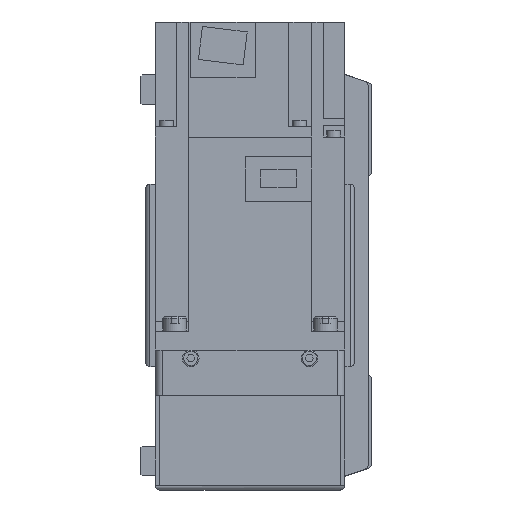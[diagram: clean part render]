
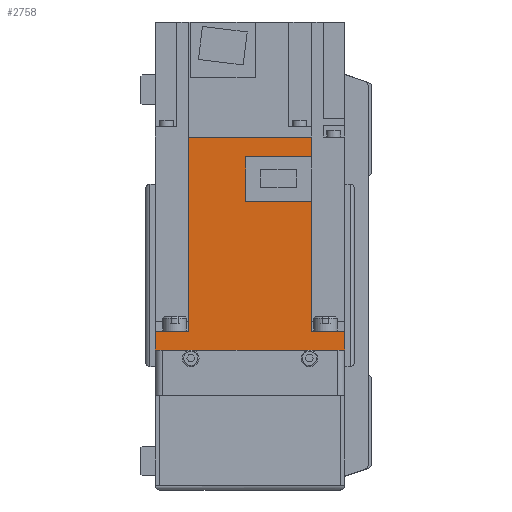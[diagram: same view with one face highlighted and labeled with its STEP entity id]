
A CAD part, left-side view. The second image highlights one B-rep face of the part: STEP entity #2758.
In plain terms, the highlighted planar face has unit normal (-1, 0, 0) as drawn and (1, 0, 0) by its records, which use the part's own axes.
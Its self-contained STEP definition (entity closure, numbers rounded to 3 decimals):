
#2758 = ADVANCED_FACE( '', ( #5759 ), #5760, .F. );
#5759 = FACE_OUTER_BOUND( '', #8881, .T. );
#5760 = PLANE( '', #8882 );
#8881 = EDGE_LOOP( '', ( #16660, #16661, #16662, #16663, #16664, #16665, #16666, #16667, #16668, #16669, #16670, #16671 ) );
#8882 = AXIS2_PLACEMENT_3D( '', #16672, #16673, #16674 );
#16660 = ORIENTED_EDGE( '', *, *, #18873, .F. );
#16661 = ORIENTED_EDGE( '', *, *, #20983, .F. );
#16662 = ORIENTED_EDGE( '', *, *, #19799, .F. );
#16663 = ORIENTED_EDGE( '', *, *, #18566, .T. );
#16664 = ORIENTED_EDGE( '', *, *, #20676, .F. );
#16665 = ORIENTED_EDGE( '', *, *, #19483, .T. );
#16666 = ORIENTED_EDGE( '', *, *, #21108, .T. );
#16667 = ORIENTED_EDGE( '', *, *, #20032, .F. );
#16668 = ORIENTED_EDGE( '', *, *, #20920, .F. );
#16669 = ORIENTED_EDGE( '', *, *, #20984, .F. );
#16670 = ORIENTED_EDGE( '', *, *, #19229, .F. );
#16671 = ORIENTED_EDGE( '', *, *, #21109, .F. );
#16672 = CARTESIAN_POINT( '', ( 40., 89.8, 40. ) );
#16673 = DIRECTION( '', ( -1., 0., 0. ) );
#16674 = DIRECTION( '', ( 0., 0., 1. ) );
#18566 = EDGE_CURVE( '', #22396, #22394, #22397, .T. );
#18873 = EDGE_CURVE( '', #22916, #22918, #22919, .T. );
#19229 = EDGE_CURVE( '', #23510, #23511, #23512, .T. );
#19483 = EDGE_CURVE( '', #23915, #23913, #23916, .T. );
#19799 = EDGE_CURVE( '', #22396, #24380, #24383, .T. );
#20032 = EDGE_CURVE( '', #24718, #24720, #24721, .T. );
#20676 = EDGE_CURVE( '', #23915, #22394, #25580, .T. );
#20920 = EDGE_CURVE( '', #25873, #24718, #25874, .T. );
#20983 = EDGE_CURVE( '', #24380, #22916, #25950, .T. );
#20984 = EDGE_CURVE( '', #23511, #25873, #25951, .T. );
#21108 = EDGE_CURVE( '', #23913, #24720, #26087, .T. );
#21109 = EDGE_CURVE( '', #22918, #23510, #26088, .T. );
#22394 = VERTEX_POINT( '', #27782 );
#22396 = VERTEX_POINT( '', #27785 );
#22397 = LINE( '', #27786, #27787 );
#22916 = VERTEX_POINT( '', #28491 );
#22918 = VERTEX_POINT( '', #28494 );
#22919 = LINE( '', #28495, #28496 );
#23510 = VERTEX_POINT( '', #29335 );
#23511 = VERTEX_POINT( '', #29336 );
#23512 = LINE( '', #29337, #29338 );
#23913 = VERTEX_POINT( '', #29887 );
#23915 = VERTEX_POINT( '', #29890 );
#23916 = LINE( '', #29891, #29892 );
#24380 = VERTEX_POINT( '', #30600 );
#24383 = LINE( '', #30605, #30606 );
#24718 = VERTEX_POINT( '', #31123 );
#24720 = VERTEX_POINT( '', #31126 );
#24721 = LINE( '', #31127, #31128 );
#25580 = LINE( '', #32455, #32456 );
#25873 = VERTEX_POINT( '', #32873 );
#25874 = LINE( '', #32874, #32875 );
#25950 = LINE( '', #32973, #32974 );
#25951 = LINE( '', #32975, #32976 );
#26087 = LINE( '', #33151, #33152 );
#26088 = LINE( '', #33153, #33154 );
#27782 = CARTESIAN_POINT( '', ( 40., 8., 25.95 ) );
#27785 = CARTESIAN_POINT( '', ( 40., 89.8, 25.95 ) );
#27786 = CARTESIAN_POINT( '', ( 40., 158., 25.95 ) );
#27787 = VECTOR( '', #34248, 1000. );
#28491 = CARTESIAN_POINT( '', ( 40., 81.4, -25.95 ) );
#28494 = CARTESIAN_POINT( '', ( 40., 81.4, 1.8 ) );
#28495 = CARTESIAN_POINT( '', ( 40., 81.4, -26. ) );
#28496 = VECTOR( '', #34667, 1000. );
#29335 = CARTESIAN_POINT( '', ( 40., 62.8, 1.8 ) );
#29336 = CARTESIAN_POINT( '', ( 40., 62.8, -25.95 ) );
#29337 = CARTESIAN_POINT( '', ( 40., 62.8, 1.8 ) );
#29338 = VECTOR( '', #35126, 1000. );
#29887 = CARTESIAN_POINT( '', ( 40., 0., 40. ) );
#29890 = CARTESIAN_POINT( '', ( 40., 8., 40. ) );
#29891 = CARTESIAN_POINT( '', ( 40., 89.8, 40. ) );
#29892 = VECTOR( '', #35434, 1000. );
#30600 = CARTESIAN_POINT( '', ( 40., 89.8, -25.95 ) );
#30605 = CARTESIAN_POINT( '', ( 40., 89.8, 40. ) );
#30606 = VECTOR( '', #35810, 1000. );
#31123 = CARTESIAN_POINT( '', ( 40., 8., -40. ) );
#31126 = CARTESIAN_POINT( '', ( 40., 0., -40. ) );
#31127 = CARTESIAN_POINT( '', ( 40., 89.8, -40. ) );
#31128 = VECTOR( '', #36056, 1000. );
#32455 = CARTESIAN_POINT( '', ( 40., 8., 40. ) );
#32456 = VECTOR( '', #36779, 1000. );
#32873 = CARTESIAN_POINT( '', ( 40., 8., -25.95 ) );
#32874 = CARTESIAN_POINT( '', ( 40., 8., 40. ) );
#32875 = VECTOR( '', #37000, 1000. );
#32973 = CARTESIAN_POINT( '', ( 40., 158., -25.95 ) );
#32974 = VECTOR( '', #37062, 1000. );
#32975 = CARTESIAN_POINT( '', ( 40., 158., -25.95 ) );
#32976 = VECTOR( '', #37063, 1000. );
#33151 = CARTESIAN_POINT( '', ( 40., 0., 40. ) );
#33152 = VECTOR( '', #37160, 1000. );
#33153 = CARTESIAN_POINT( '', ( 40., 81.4, 1.8 ) );
#33154 = VECTOR( '', #37161, 1000. );
#34248 = DIRECTION( '', ( 0., -1., 0. ) );
#34667 = DIRECTION( '', ( 0., 0., 1. ) );
#35126 = DIRECTION( '', ( 0., 0., -1. ) );
#35434 = DIRECTION( '', ( 0., -1., 0. ) );
#35810 = DIRECTION( '', ( 0., 0., -1. ) );
#36056 = DIRECTION( '', ( 0., -1., 0. ) );
#36779 = DIRECTION( '', ( 0., 0., -1. ) );
#37000 = DIRECTION( '', ( 0., 0., -1. ) );
#37062 = DIRECTION( '', ( 0., -1., 0. ) );
#37063 = DIRECTION( '', ( 0., -1., 0. ) );
#37160 = DIRECTION( '', ( 0., 0., -1. ) );
#37161 = DIRECTION( '', ( 0., -1., 0. ) );
